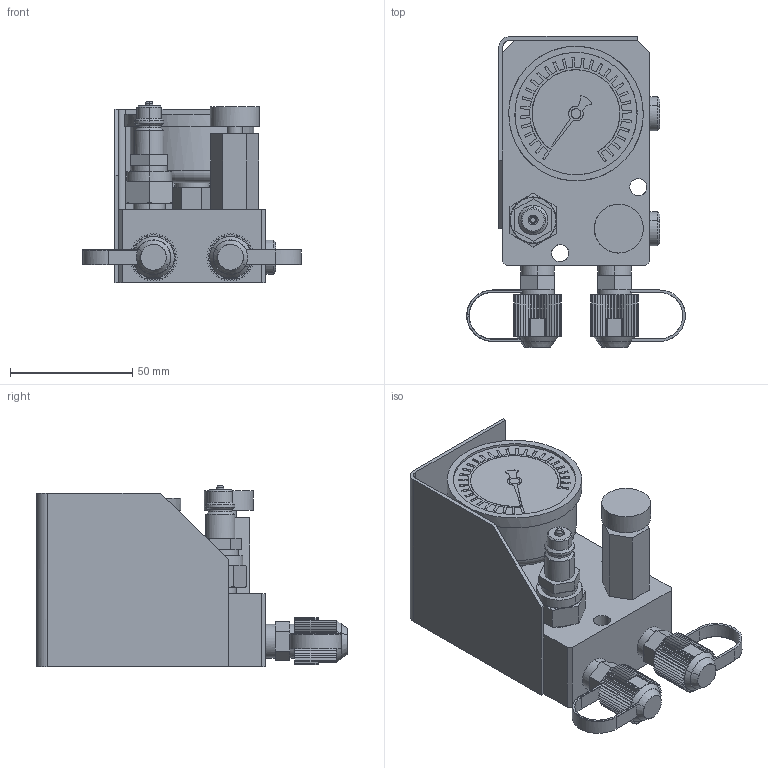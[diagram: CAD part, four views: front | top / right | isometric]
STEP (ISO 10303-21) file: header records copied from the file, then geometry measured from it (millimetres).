
FILE_DESCRIPTION(('CATIA V5 STEP Exchange'),'2;1');
FILE_NAME('W:\LIBRERIA TECAPRES®\FICHEROS CAD\PANEL DE CONTROL\P110.stp','2016-02-03T11:58:53+00:00',('none'),('none'),'CATIA Version 5 Release 17 (IN-10)','CATIA V5 STEP AP203','none');
FILE_SCHEMA(('CONFIG_CONTROL_DESIGN'));
Length unit declared in the file: millimetre
Products named in the file (1): P110
Bounding box: 89.31 x 127 x 74.35 mm (x, y, z)
Volume: 265086.4 mm3; surface area: 58184.2 mm2
Topology: 1 solids, 7 shells, 771 faces, 2037 edges, 1308 vertices
Faces by surface type: plane 439, cylinder 152, cone 146, torus 34
Entity records: 25096 total; most frequent: CARTESIAN_POINT 7362, ORIENTED_EDGE 4058, DIRECTION 2934, EDGE_CURVE 2029, VECTOR 1398, LINE 1398, VERTEX_POINT 1304, AXIS2_PLACEMENT_3D 941
